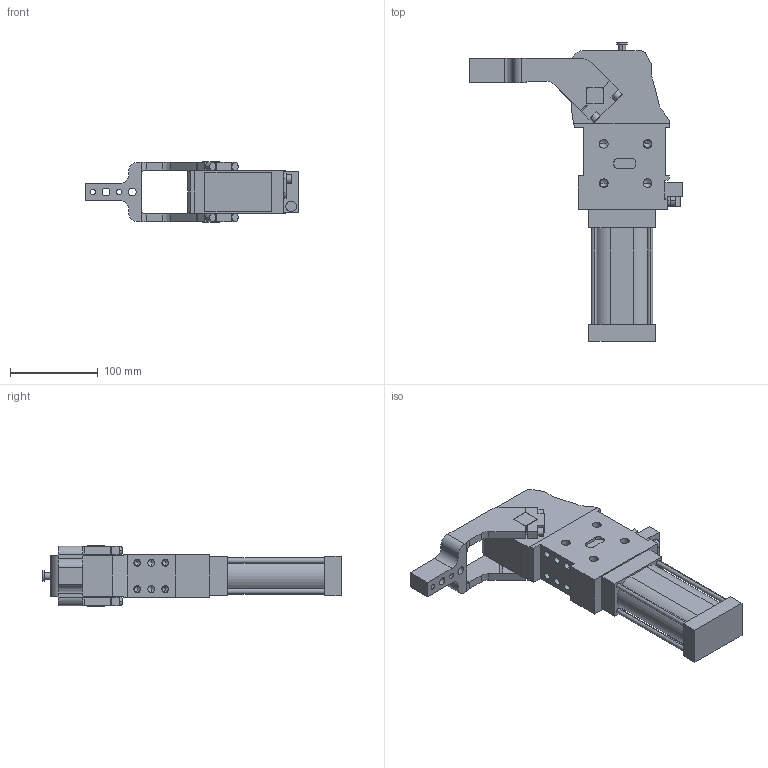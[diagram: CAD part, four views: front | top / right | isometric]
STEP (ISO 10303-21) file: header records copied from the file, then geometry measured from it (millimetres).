
FILE_DESCRIPTION (( 'STEP AP214' ), '1' );
FILE_NAME ('cpl50v1ci1g_135.STEP', '2023-01-26T08:46:08', ( '' ), ( '' ), 'SwSTEP 2.0', 'SolidWorks 2022', '' );
FILE_SCHEMA (( 'AUTOMOTIVE_DESIGN' ));
Length unit declared in the file: millimetre
Products named in the file (4): cpl50v1ci1g_135; meccanica_cpl_50; blocchetto_VEP_0; leva_cx_offset_15_cpl50
Assembly tree (3 placements, depth 2):
  cpl50v1ci1g_135
    meccanica_cpl_50
    blocchetto_VEP_0
    leva_cx_offset_15_cpl50
Bounding box: 244.5 x 341 x 69 mm (x, y, z)
Volume: 1377699.2 mm3; surface area: 162299.6 mm2
Topology: 3 solids, 3 shells, 399 faces, 1029 edges, 639 vertices
Faces by surface type: plane 193, cylinder 156, cone 50
Entity records: 13415 total; most frequent: DIRECTION 2119, CARTESIAN_POINT 2097, ORIENTED_EDGE 1966, EDGE_CURVE 983, AXIS2_PLACEMENT_3D 735, LINE 649, VECTOR 649, VERTEX_POINT 639
